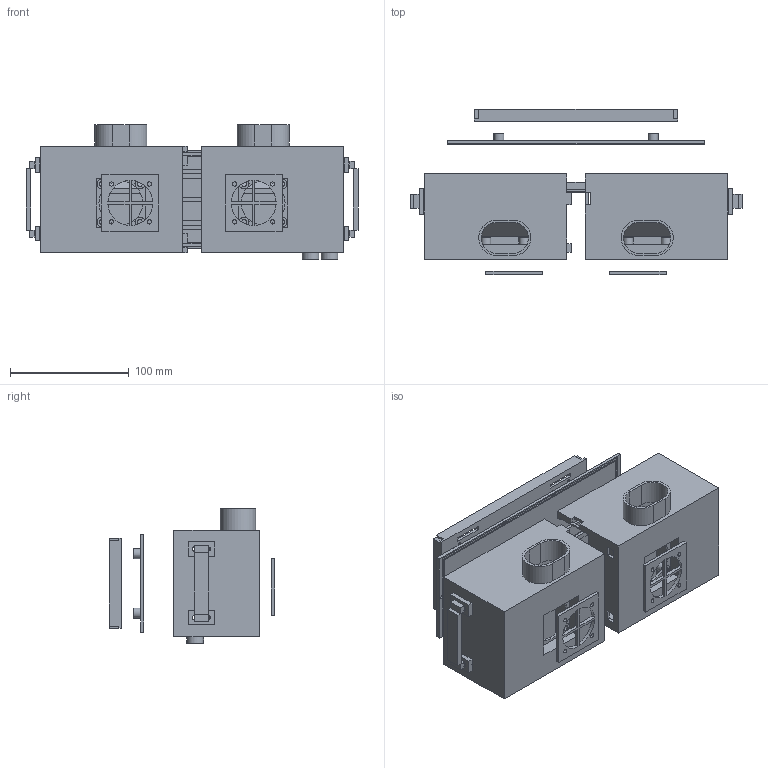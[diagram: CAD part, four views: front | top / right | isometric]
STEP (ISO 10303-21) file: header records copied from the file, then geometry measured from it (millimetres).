
FILE_DESCRIPTION(('Open CASCADE Model'),'2;1');
FILE_NAME('Open CASCADE Shape Model','2026-08-16T15:13:30',('Author'),( 'Open CASCADE'),'Open CASCADE STEP processor 7.9','Open CASCADE 7.9' ,'Unknown');
FILE_SCHEMA(('AUTOMOTIVE_DESIGN { 1 0 10303 214 1 1 1 1 }'));
Length unit declared in the file: millimetre
Products named in the file (11): HeatSentry_V7_TRUE_FINAL_EXPLODED; LeftShell; RightShell; ServiceCover; BatteryCradle; ESPSled; BeltLoopL; BeltLoopR; FanGrilleL; FanGrilleR; PCMCarrier
Assembly tree (10 placements, depth 2):
  HeatSentry_V7_TRUE_FINAL_EXPLODED
    LeftShell
    RightShell
    ServiceCover
    BatteryCradle
    ESPSled
    BeltLoopL
    BeltLoopR
    FanGrilleL
    FanGrilleR
    PCMCarrier
Bounding box: 280 x 139.5 x 113.5 mm (x, y, z)
Volume: 390209.6 mm3; surface area: 334679 mm2
Topology: 10 solids, 10 shells, 659 faces, 1720 edges, 1144 vertices
Faces by surface type: plane 495, cylinder 164
Full cylindrical faces by diameter (mm): 2 x4, 2.7 x4, 3.5 x34, 4.2 x38, 6.2 x4, 8.2 x18, 8.4 x8, 8.5 x2, 8.6 x4, 8.8 x16, 9.2 x10, 14 x4, 37 x2
Entity records: 42144 total; most frequent: CARTESIAN_POINT 7979, DIRECTION 5942, ORIENTED_EDGE 3440, PCURVE 3440, DEFINITIONAL_REPRESENTATION 3440, LINE 3373, VECTOR 3373, EDGE_CURVE 1720
